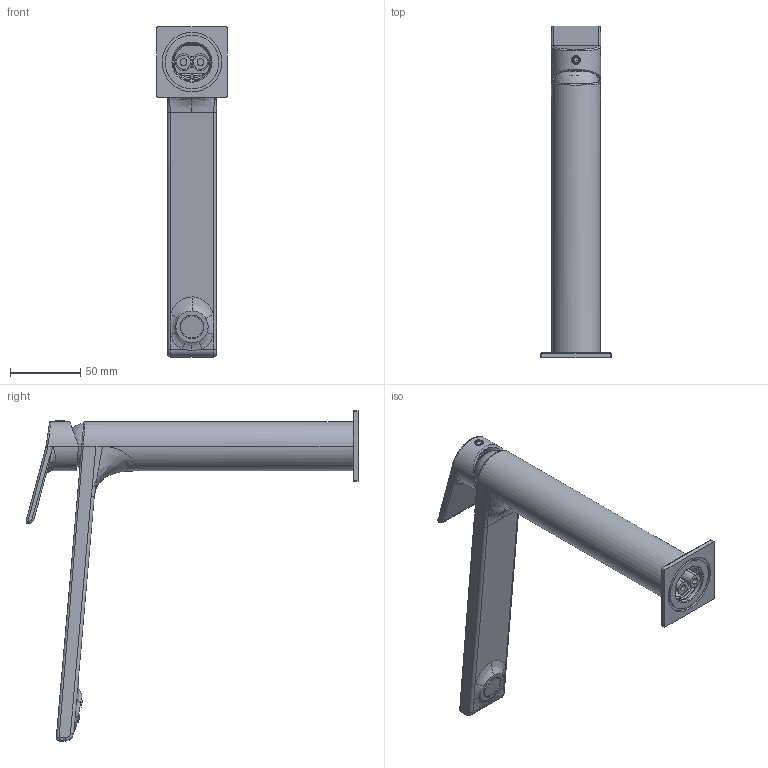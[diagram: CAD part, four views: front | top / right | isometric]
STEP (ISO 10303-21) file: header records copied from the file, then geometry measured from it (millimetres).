
FILE_DESCRIPTION((''),'2;1');
FILE_NAME('74040_SW0001','2026-04-20T08:49:39',('carloff'),(''),'CREO PARAMETRIC BY PTC INC, 2022014','CREO PARAMETRIC BY PTC INC, 2022014','');
FILE_SCHEMA(('CONFIG_CONTROL_DESIGN'));
Length unit declared in the file: millimetre
Products named in the file (1): 74040_SW0001
Bounding box: 50 x 236.39 x 235 mm (x, y, z)
Volume: 157443 mm3; surface area: 106370.9 mm2
Topology: 2 solids, 2 shells, 1127 faces, 2706 edges, 1594 vertices
Faces by surface type: cylinder 365, bspline 300, plane 223, torus 169, cone 48, sphere 22
Entity records: 65459 total; most frequent: CARTESIAN_POINT 41505, ORIENTED_EDGE 5390, DIRECTION 4565, EDGE_CURVE 2695, AXIS2_PLACEMENT_3D 1929, VERTEX_POINT 1594, EDGE_LOOP 1165, FACE_OUTER_BOUND 1127
